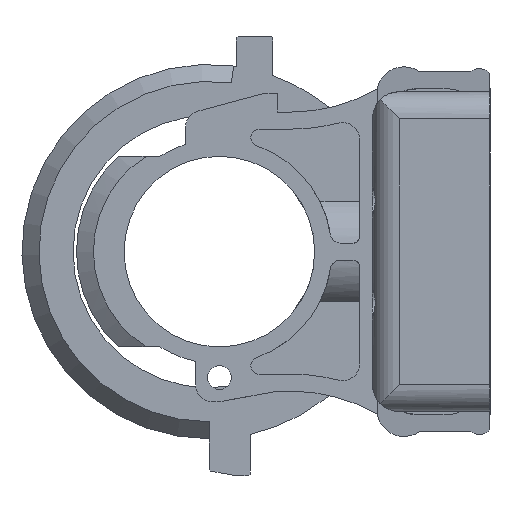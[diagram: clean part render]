
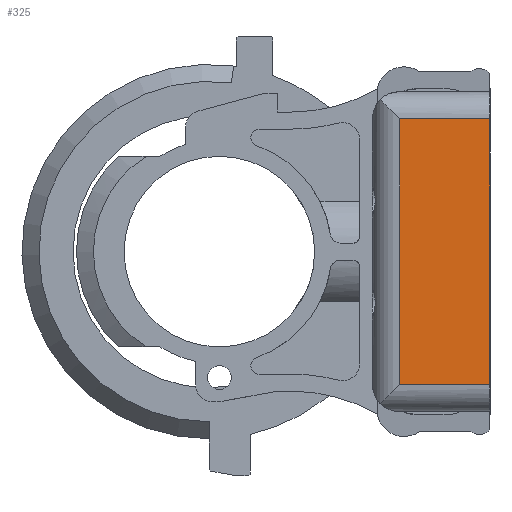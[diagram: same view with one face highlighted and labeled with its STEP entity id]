
A CAD part, left-side view. The second image highlights one B-rep face of the part: STEP entity #325.
In plain terms, the highlighted planar face has unit normal (-1, 0, 0).
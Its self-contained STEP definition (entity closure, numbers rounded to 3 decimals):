
#325 = ADVANCED_FACE( '', ( #778 ), #779, .F. );
#778 = FACE_OUTER_BOUND( '', #1415, .T. );
#779 = PLANE( '', #1416 );
#1415 = EDGE_LOOP( '', ( #2171, #2172, #2173, #2174 ) );
#1416 = AXIS2_PLACEMENT_3D( '', #2175, #2176, #2177 );
#2171 = ORIENTED_EDGE( '', *, *, #3953, .F. );
#2172 = ORIENTED_EDGE( '', *, *, #3954, .F. );
#2173 = ORIENTED_EDGE( '', *, *, #3955, .T. );
#2174 = ORIENTED_EDGE( '', *, *, #3956, .T. );
#2175 = CARTESIAN_POINT( '', ( 0., 26.55, 39. ) );
#2176 = DIRECTION( '', ( 1., 0., 0. ) );
#2177 = DIRECTION( '', ( 0., 0., -1. ) );
#3953 = EDGE_CURVE( '', #4791, #4792, #4793, .T. );
#3954 = EDGE_CURVE( '', #4794, #4791, #4795, .T. );
#3955 = EDGE_CURVE( '', #4794, #4796, #4797, .T. );
#3956 = EDGE_CURVE( '', #4796, #4792, #4798, .T. );
#4791 = VERTEX_POINT( '', #5935 );
#4792 = VERTEX_POINT( '', #5936 );
#4793 = LINE( '', #5937, #5938 );
#4794 = VERTEX_POINT( '', #5939 );
#4795 = LINE( '', #5940, #5941 );
#4796 = VERTEX_POINT( '', #5942 );
#4797 = LINE( '', #5943, #5944 );
#4798 = LINE( '', #5945, #5946 );
#5935 = CARTESIAN_POINT( '', ( 0., 0., 39. ) );
#5936 = CARTESIAN_POINT( '', ( 0., 0., -39. ) );
#5937 = CARTESIAN_POINT( '', ( 0., 0., 47. ) );
#5938 = VECTOR( '', #7694, 1000. );
#5939 = CARTESIAN_POINT( '', ( 0., 26.55, 39. ) );
#5940 = CARTESIAN_POINT( '', ( 0., 34.55, 39. ) );
#5941 = VECTOR( '', #7695, 1000. );
#5942 = CARTESIAN_POINT( '', ( 0., 26.55, -39. ) );
#5943 = CARTESIAN_POINT( '', ( 0., 26.55, 47. ) );
#5944 = VECTOR( '', #7696, 1000. );
#5945 = CARTESIAN_POINT( '', ( 0., 34.55, -39. ) );
#5946 = VECTOR( '', #7697, 1000. );
#7694 = DIRECTION( '', ( 0., 0., -1. ) );
#7695 = DIRECTION( '', ( 0., -1., 0. ) );
#7696 = DIRECTION( '', ( 0., 0., -1. ) );
#7697 = DIRECTION( '', ( 0., -1., 0. ) );
